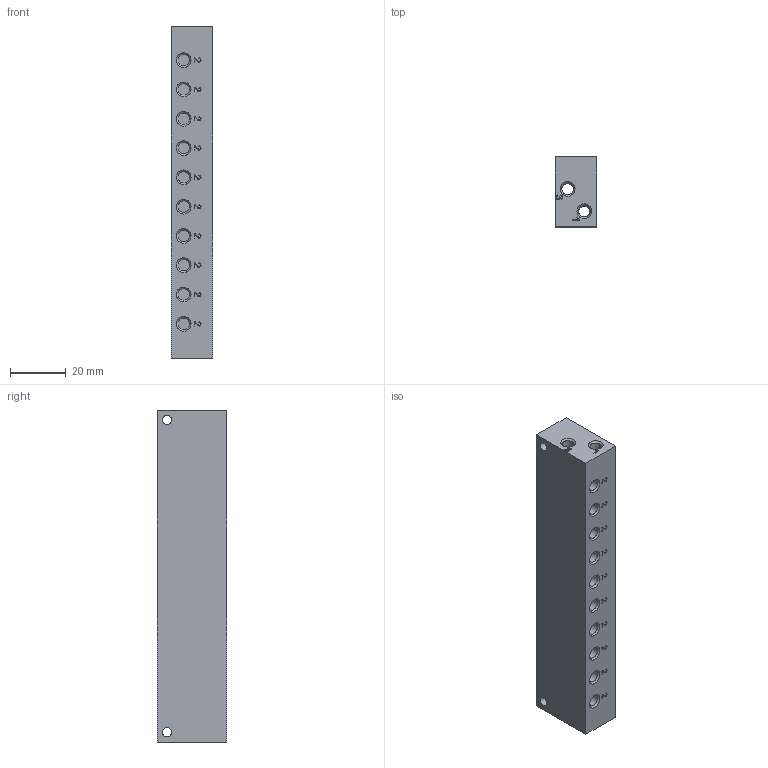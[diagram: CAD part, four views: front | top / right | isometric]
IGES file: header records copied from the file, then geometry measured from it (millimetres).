
Global section: file name: P395_10; native system: Autodesk Inventor 2014; preprocessor: unknown; date: 20160908.083113; units: millimetre
Bounding box: 15 x 25 x 119 mm (x, y, z)
Volume: 39974.2 mm3; surface area: 14699.6 mm2
Topology: 1 solids, 1 shells, 300 faces, 864 edges, 592 vertices
Faces by surface type: bspline 300
